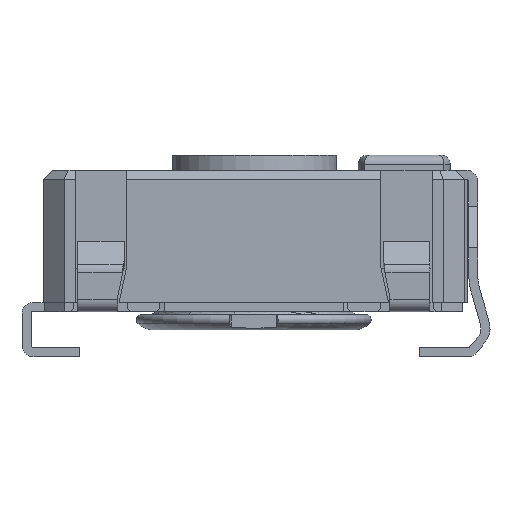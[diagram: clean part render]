
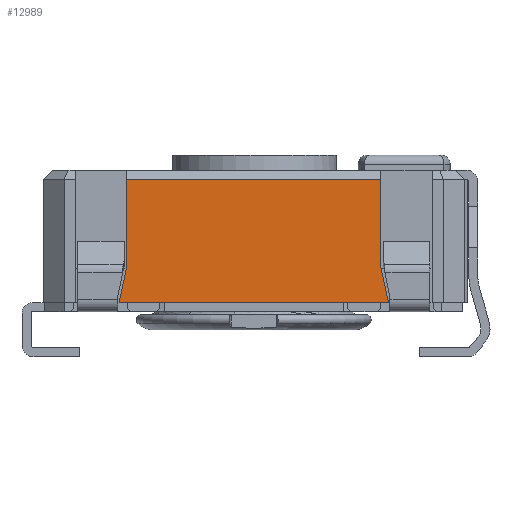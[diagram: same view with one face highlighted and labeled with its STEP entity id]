
A CAD part, left-side view. The second image highlights one B-rep face of the part: STEP entity #12989.
In plain terms, the highlighted planar face has unit normal (-1, 0, 0).
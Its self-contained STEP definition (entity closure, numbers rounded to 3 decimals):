
#845=FACE_OUTER_BOUND('',#1510,.T.);
#1510=EDGE_LOOP('',(#11000,#11001,#11002,#11003,#11004,#11005));
#2110=LINE('',#19024,#3530);
#2555=LINE('',#20408,#3975);
#2559=LINE('',#20415,#3979);
#2911=LINE('',#21168,#4331);
#2916=LINE('',#21176,#4336);
#2917=LINE('',#21178,#4337);
#3530=VECTOR('',#15271,10.);
#3975=VECTOR('',#16350,10.);
#3979=VECTOR('',#16356,10.);
#4331=VECTOR('',#17092,10.);
#4336=VECTOR('',#17099,10.);
#4337=VECTOR('',#17102,10.);
#5218=VERTEX_POINT('',#19021);
#5219=VERTEX_POINT('',#19023);
#5646=VERTEX_POINT('',#20405);
#5647=VERTEX_POINT('',#20407);
#5649=VERTEX_POINT('',#20413);
#5844=VERTEX_POINT('',#21174);
#6599=EDGE_CURVE('',#5218,#5219,#2110,.T.);
#7204=EDGE_CURVE('',#5646,#5647,#2555,.T.);
#7208=EDGE_CURVE('',#5646,#5649,#2559,.T.);
#7583=EDGE_CURVE('',#5219,#5649,#2911,.T.);
#7588=EDGE_CURVE('',#5844,#5218,#2916,.T.);
#7589=EDGE_CURVE('',#5844,#5647,#2917,.T.);
#11000=ORIENTED_EDGE('',*,*,#7204,.F.);
#11001=ORIENTED_EDGE('',*,*,#7208,.T.);
#11002=ORIENTED_EDGE('',*,*,#7583,.F.);
#11003=ORIENTED_EDGE('',*,*,#6599,.F.);
#11004=ORIENTED_EDGE('',*,*,#7588,.F.);
#11005=ORIENTED_EDGE('',*,*,#7589,.T.);
#11727=PLANE('',#13948);
#12989=ADVANCED_FACE('',(#845),#11727,.T.);
#13948=AXIS2_PLACEMENT_3D('',#21212,#17148,#17149);
#15271=DIRECTION('',(0.,1.,0.));
#16350=DIRECTION('',(0.,-1.,0.));
#16356=DIRECTION('',(0.,0.,-1.));
#17092=DIRECTION('',(0.,-0.208,0.978));
#17099=DIRECTION('',(0.,-0.208,-0.978));
#17102=DIRECTION('',(0.,0.,1.));
#17148=DIRECTION('center_axis',(-1.,0.,0.));
#17149=DIRECTION('ref_axis',(0.,0.,1.));
#19021=CARTESIAN_POINT('',(-7.,-4.425,-2.25));
#19023=CARTESIAN_POINT('',(-7.,4.525,-2.25));
#19024=CARTESIAN_POINT('',(-7.,-6.25,-2.25));
#20405=CARTESIAN_POINT('',(-7.,4.275,1.85));
#20407=CARTESIAN_POINT('',(-7.,-4.175,1.85));
#20408=CARTESIAN_POINT('',(-7.,-3.1,1.85));
#20413=CARTESIAN_POINT('',(-7.,4.275,-1.074));
#20415=CARTESIAN_POINT('',(-7.,4.275,-2.25));
#21168=CARTESIAN_POINT('',(-7.,4.525,-2.25));
#21174=CARTESIAN_POINT('',(-7.,-4.175,-1.074));
#21176=CARTESIAN_POINT('',(-7.,-4.175,-1.074));
#21178=CARTESIAN_POINT('',(-7.,-4.175,-2.25));
#21212=CARTESIAN_POINT('Origin',(-7.,-6.25,-2.25));
